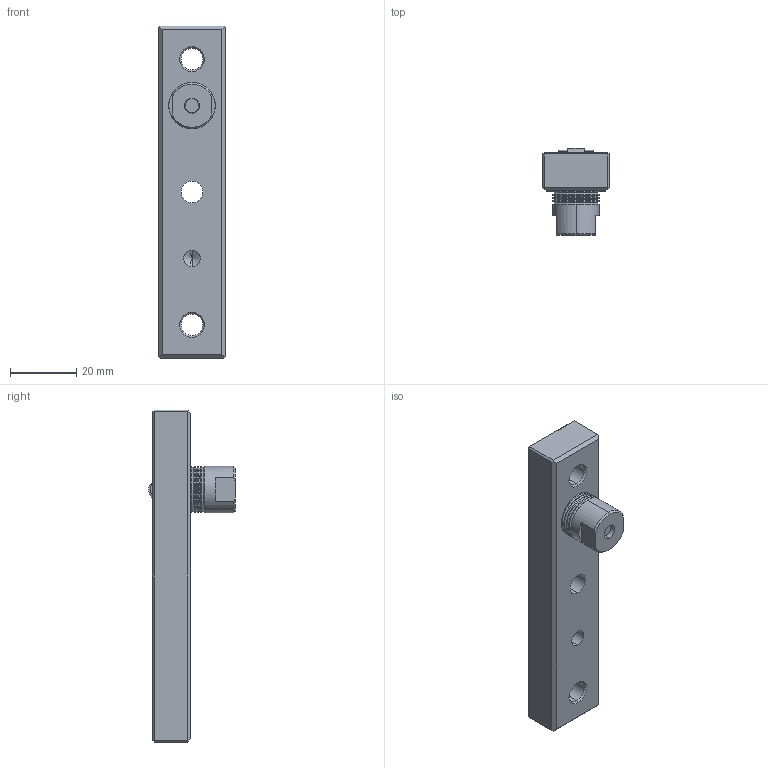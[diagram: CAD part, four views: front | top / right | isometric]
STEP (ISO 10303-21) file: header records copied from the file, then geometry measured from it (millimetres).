
FILE_DESCRIPTION (( 'STEP AP203' ), '1' );
FILE_NAME ('PRI20100.STEP', '2010-06-15T09:18:19', ( ' ' ), ( ' ' ), 'SwSTEP 2.0', 'SolidWorks 2005204', '' );
FILE_SCHEMA (( 'CONFIG_CONTROL_DESIGN' ));
Length unit declared in the file: millimetre
Products named in the file (7): PRI20100; RITENSORE 20; RULLINO6; PERNO RULLINO6; CORPO RITENSORE6; SPINA 3X9_Parallel Pin ISO 8734 - 4 x 18 - A - St
Assembly tree (6 placements, depth 3):
  PRI20100
    RITENSORE 20
      PERNO RULLINO6
      CORPO RITENSORE6
      SPINA 3X9_Parallel Pin ISO 8734 - 4 x 18 - A - St
      RULLINO6
    PRI20100
Bounding box: 20 x 26.2 x 100 mm (x, y, z)
Volume: 21770.1 mm3; surface area: 10333.8 mm2
Topology: 5 solids, 5 shells, 175 faces, 393 edges, 234 vertices
Faces by surface type: cylinder 69, cone 55, plane 49, torus 2
Entity records: 5741 total; most frequent: CARTESIAN_POINT 992, DIRECTION 916, ORIENTED_EDGE 782, EDGE_CURVE 391, AXIS2_PLACEMENT_3D 358, VERTEX_POINT 234, LINE 200, VECTOR 200
